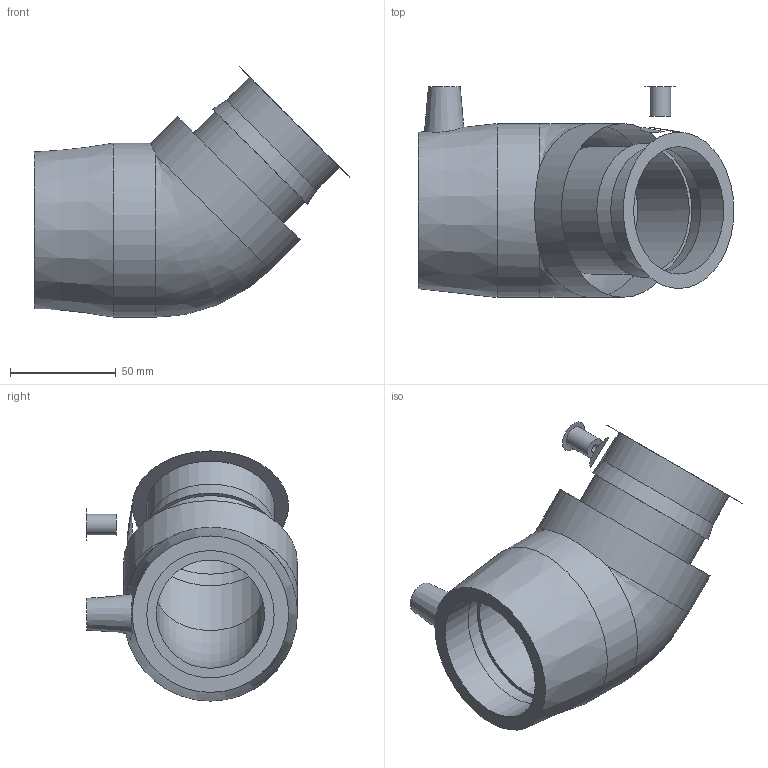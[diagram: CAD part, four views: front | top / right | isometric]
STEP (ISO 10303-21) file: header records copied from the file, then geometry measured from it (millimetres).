
FILE_DESCRIPTION(/* description */ ('PLASSON 45° ELBOW 2'''''),/* implementation_level */ '2;1');
FILE_NAME(/* name */ 'C:\Dropbox\KIMPROJECTS-Inventor 2019\99-16-3568-Processing Inch\ASTM ElectroFusion 2021\5906B\5906B003020.ipt.stp',/* time_stamp */ '2021-08-30T09:50:04+03:00',/* author */ ('KIM'),/* organization */ (''),/* preprocessor_version */ 'ST-DEVELOPER v17.2',/* originating_system */ 'Autodesk Inventor 2019',/* authorisation */ '');
FILE_SCHEMA (('AUTOMOTIVE_DESIGN { 1 0 10303 214 3 1 1 }'));
Length unit declared in the file: inch
Products named in the file (1): 5906B003020
Bounding box: 149.1 x 99.44 x 118.07 mm (x, y, z)
Volume: 338916.8 mm3; surface area: 70429.9 mm2
Topology: 1 solids, 1 shells, 30 faces, 66 edges, 46 vertices
Faces by surface type: plane 12, cylinder 10, cone 6, bspline 1, torus 1
Full cylindrical faces by diameter (mm): 4 x2, 10 x2, 60.1 x4, 82.042 x2
Entity records: 981 total; most frequent: CARTESIAN_POINT 235, DIRECTION 164, ORIENTED_EDGE 128, AXIS2_PLACEMENT_3D 74, EDGE_CURVE 64, VERTEX_POINT 46, CIRCLE 43, EDGE_LOOP 42
